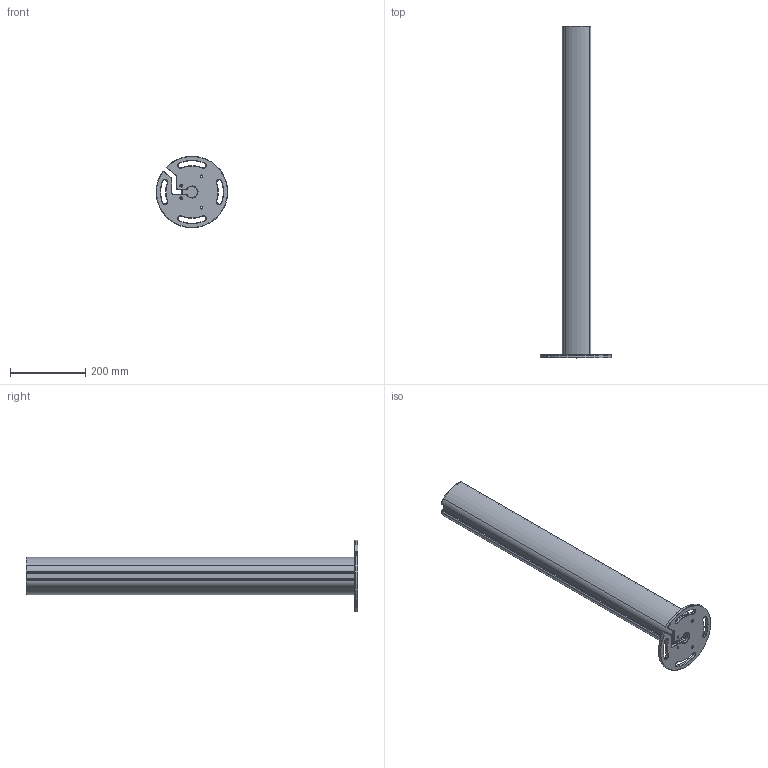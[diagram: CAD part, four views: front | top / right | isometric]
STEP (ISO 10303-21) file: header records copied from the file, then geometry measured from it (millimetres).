
FILE_DESCRIPTION((''),'2;1');
FILE_NAME('ESQC_ASM','2022-07-19T12:10:27',('18822879468'),(''),'CREO PARAMETRIC BY PTC INC, 2019010','CREO PARAMETRIC BY PTC INC, 2019010','');
FILE_SCHEMA(('CONFIG_CONTROL_DESIGN'));
Length unit declared in the file: millimetre
Products named in the file (5): 00; _-0001; _-0002; 000; ESQC_ASM
Assembly tree (4 placements, depth 2):
  ESQC_ASM
    00
    _-0001
    _-0002
    000
Bounding box: 189.81 x 880 x 189.85 mm (x, y, z)
Volume: 1359139.2 mm3; surface area: 707211 mm2
Topology: 4 solids, 4 shells, 239 faces, 613 edges, 378 vertices
Faces by surface type: cylinder 98, plane 73, cone 68
Entity records: 7388 total; most frequent: DIRECTION 1365, CARTESIAN_POINT 1235, ORIENTED_EDGE 1218, EDGE_CURVE 609, AXIS2_PLACEMENT_3D 508, VERTEX_POINT 378, VECTOR 349, LINE 349
